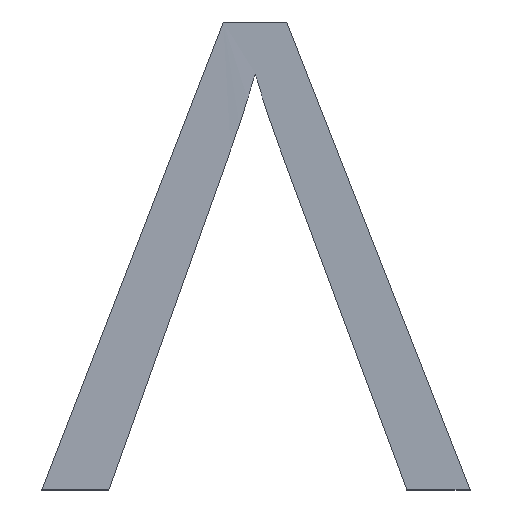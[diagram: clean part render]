
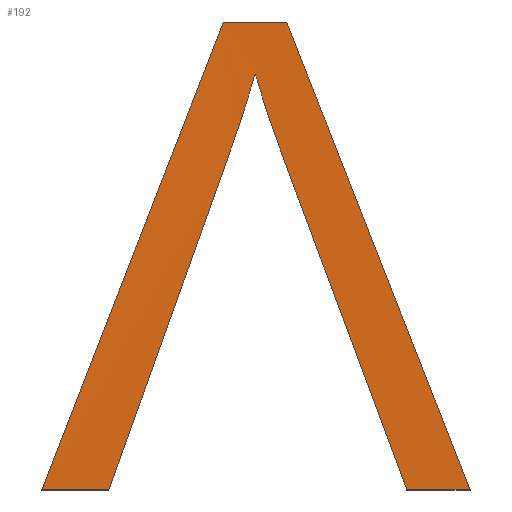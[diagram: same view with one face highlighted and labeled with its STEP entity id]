
A CAD part, top view. The second image highlights one B-rep face of the part: STEP entity #192.
In plain terms, the highlighted planar face has unit normal (0, 0, 1).
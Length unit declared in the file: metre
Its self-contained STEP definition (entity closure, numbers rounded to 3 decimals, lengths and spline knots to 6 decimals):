
#12=CIRCLE('',#202,0.001866);
#14=CIRCLE('',#205,0.001688);
#59=ORIENTED_EDGE('',*,*,#91,.T.);
#60=ORIENTED_EDGE('',*,*,#68,.T.);
#61=ORIENTED_EDGE('',*,*,#72,.T.);
#62=ORIENTED_EDGE('',*,*,#75,.T.);
#63=ORIENTED_EDGE('',*,*,#77,.T.);
#64=ORIENTED_EDGE('',*,*,#79,.T.);
#65=ORIENTED_EDGE('',*,*,#82,.T.);
#66=ORIENTED_EDGE('',*,*,#85,.T.);
#67=ORIENTED_EDGE('',*,*,#88,.T.);
#68=EDGE_CURVE('',#93,#94,#109,.T.);
#72=EDGE_CURVE('',#94,#97,#113,.F.);
#75=EDGE_CURVE('',#97,#99,#116,.T.);
#77=EDGE_CURVE('',#99,#100,#12,.F.);
#79=EDGE_CURVE('',#100,#101,#14,.F.);
#82=EDGE_CURVE('',#101,#103,#119,.T.);
#85=EDGE_CURVE('',#103,#105,#122,.F.);
#88=EDGE_CURVE('',#105,#107,#125,.T.);
#91=EDGE_CURVE('',#107,#93,#128,.T.);
#93=VERTEX_POINT('',#269);
#94=VERTEX_POINT('',#270);
#97=VERTEX_POINT('',#278);
#99=VERTEX_POINT('',#284);
#100=VERTEX_POINT('',#288);
#101=VERTEX_POINT('',#292);
#103=VERTEX_POINT('',#298);
#105=VERTEX_POINT('',#304);
#107=VERTEX_POINT('',#310);
#109=LINE('',#268,#130);
#113=LINE('',#277,#134);
#116=LINE('',#283,#137);
#119=LINE('',#297,#140);
#122=LINE('',#303,#143);
#125=LINE('',#309,#146);
#128=LINE('',#315,#149);
#130=VECTOR('',#217,1.);
#134=VECTOR('',#223,1.);
#137=VECTOR('',#228,1.);
#140=VECTOR('',#245,1.);
#143=VECTOR('',#250,1.);
#146=VECTOR('',#255,1.);
#149=VECTOR('',#260,1.);
#161=EDGE_LOOP('',(#59,#60,#61,#62,#63,#64,#65,#66,#67));
#172=FACE_BOUND('',#161,.T.);
#181=PLANE('',#212);
#192=ADVANCED_FACE('',(#172),#181,.F.);
#202=AXIS2_PLACEMENT_3D('',#287,#232,#233);
#205=AXIS2_PLACEMENT_3D('',#291,#238,#239);
#212=AXIS2_PLACEMENT_3D('',#318,#264,#265);
#217=DIRECTION('',(-0.361,-0.932,0.));
#223=DIRECTION('',(-1.,0.,0.));
#228=DIRECTION('',(0.337,0.942,0.));
#232=DIRECTION('',(0.,0.,-1.));
#233=DIRECTION('',(0.,1.,0.));
#238=DIRECTION('',(0.,0.,-1.));
#239=DIRECTION('',(0.,1.,0.));
#245=DIRECTION('',(0.349,-0.937,0.));
#250=DIRECTION('',(-1.,0.,0.));
#255=DIRECTION('',(-0.365,0.931,0.));
#260=DIRECTION('',(-1.,0.,0.));
#264=DIRECTION('',(0.,0.,-1.));
#265=DIRECTION('',(0.,-1.,0.));
#268=CARTESIAN_POINT('',(-0.043183,-0.005941,-0.03));
#269=CARTESIAN_POINT('',(-0.043183,-0.005941,-0.03));
#270=CARTESIAN_POINT('',(-0.0435,-0.006758,-0.03));
#277=CARTESIAN_POINT('',(-0.042598,-0.006758,-0.03));
#278=CARTESIAN_POINT('',(-0.043383,-0.006758,-0.03));
#283=CARTESIAN_POINT('',(-0.043383,-0.006758,-0.03));
#284=CARTESIAN_POINT('',(-0.043171,-0.006165,-0.030001));
#287=CARTESIAN_POINT('',(-0.044925,-0.005528,-0.03));
#288=CARTESIAN_POINT('',(-0.043128,-0.006031,-0.030001));
#291=CARTESIAN_POINT('',(-0.041504,-0.005571,-0.03));
#292=CARTESIAN_POINT('',(-0.043084,-0.006165,-0.03));
#297=CARTESIAN_POINT('',(-0.043084,-0.006165,-0.03));
#298=CARTESIAN_POINT('',(-0.042863,-0.006758,-0.03));
#303=CARTESIAN_POINT('',(-0.042598,-0.006758,-0.03));
#304=CARTESIAN_POINT('',(-0.042753,-0.006758,-0.03));
#309=CARTESIAN_POINT('',(-0.042753,-0.006758,-0.03));
#310=CARTESIAN_POINT('',(-0.043073,-0.005941,-0.03));
#315=CARTESIAN_POINT('',(-0.042598,-0.005941,-0.03));
#318=CARTESIAN_POINT('',(-0.042598,-0.00635,-0.03));
